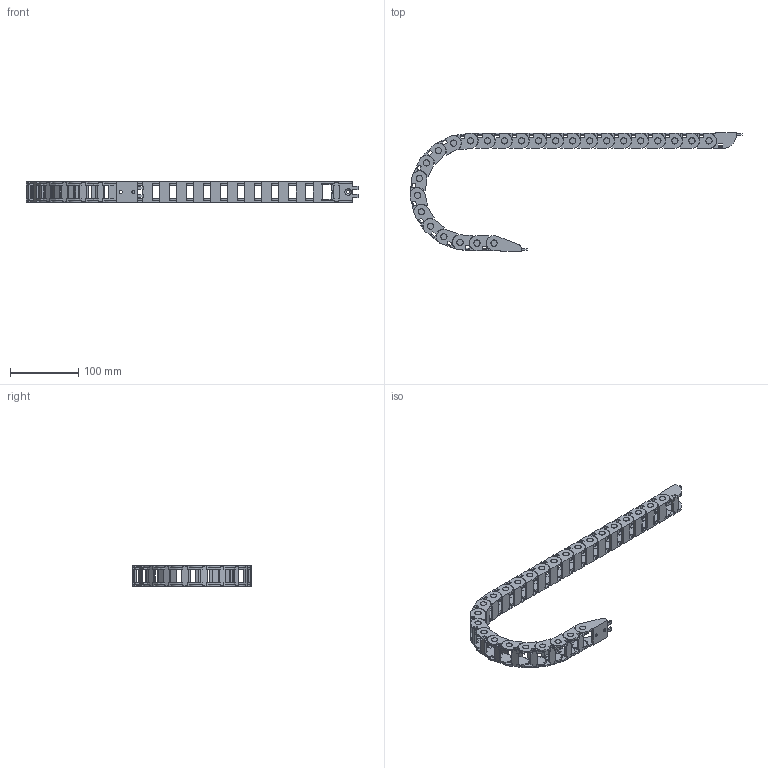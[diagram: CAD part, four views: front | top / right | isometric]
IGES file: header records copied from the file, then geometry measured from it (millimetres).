
Global section: file name: No Iges File Name specified; native system: Autodesk Inventor 2012; preprocessor: AutoDesk Inventor Iges Exporter R2012; author: cho; date: 20151020.004647; units: millimetre
Bounding box: 487.29 x 174 x 30.4 mm (x, y, z)
Volume: 152516.2 mm3; surface area: 144203.5 mm2
Topology: 53 solids, 53 shells, 2115 faces, 5821 edges, 3864 vertices
Faces by surface type: plane 1558, cylinder 366, revolution 191
Full cylindrical faces by diameter (mm): 9 x50, 9.2 x2
